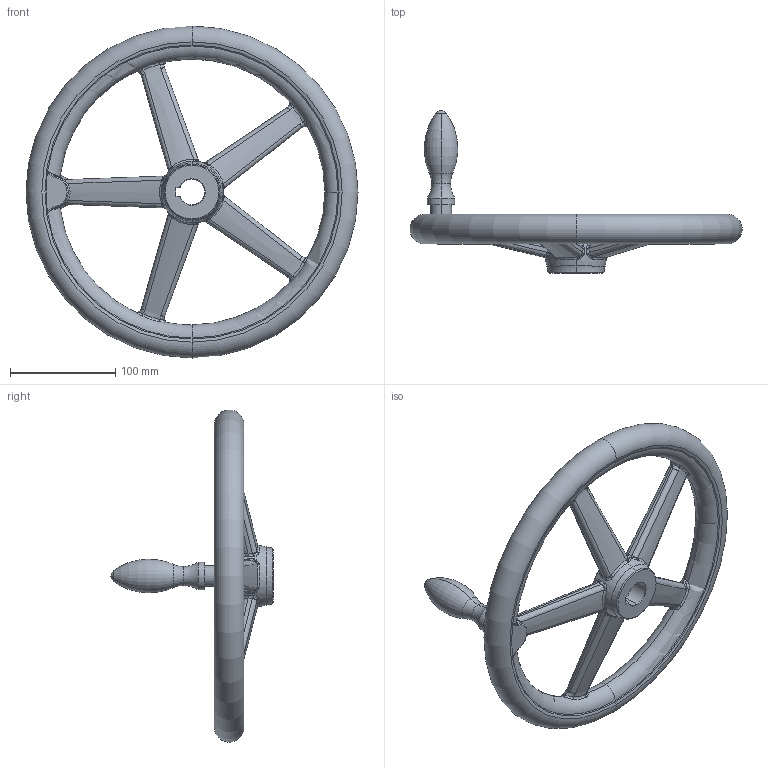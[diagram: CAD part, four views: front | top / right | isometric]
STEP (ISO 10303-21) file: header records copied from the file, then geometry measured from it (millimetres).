
FILE_DESCRIPTION (( 'STEP AP203' ), '1' );
FILE_NAME ('din950_f3_315x24.step', '2010-03-23T10:25:22', ( '_' ), ( '_' ), 'SwSTEP 2.0', 'SolidWorks 2010', '' );
FILE_SCHEMA (( 'CONFIG_CONTROL_DESIGN' ));
Length unit declared in the file: millimetre
Products named in the file (1): din950_f3_315x24
Bounding box: 314.89 x 154.5 x 314.89 mm (x, y, z)
Volume: 897925 mm3; surface area: 135747.5 mm2
Topology: 1 solids, 1 shells, 286 faces, 711 edges, 374 vertices
Faces by surface type: bspline 208, torus 26, plane 19, cone 18, cylinder 13, sphere 2
Entity records: 51980 total; most frequent: CARTESIAN_POINT 46654, ORIENTED_EDGE 1334, DIRECTION 690, EDGE_CURVE 667, B_SPLINE_CURVE_WITH_KNOTS 383, VERTEX_POINT 374, AXIS2_PLACEMENT_3D 327, EDGE_LOOP 289
